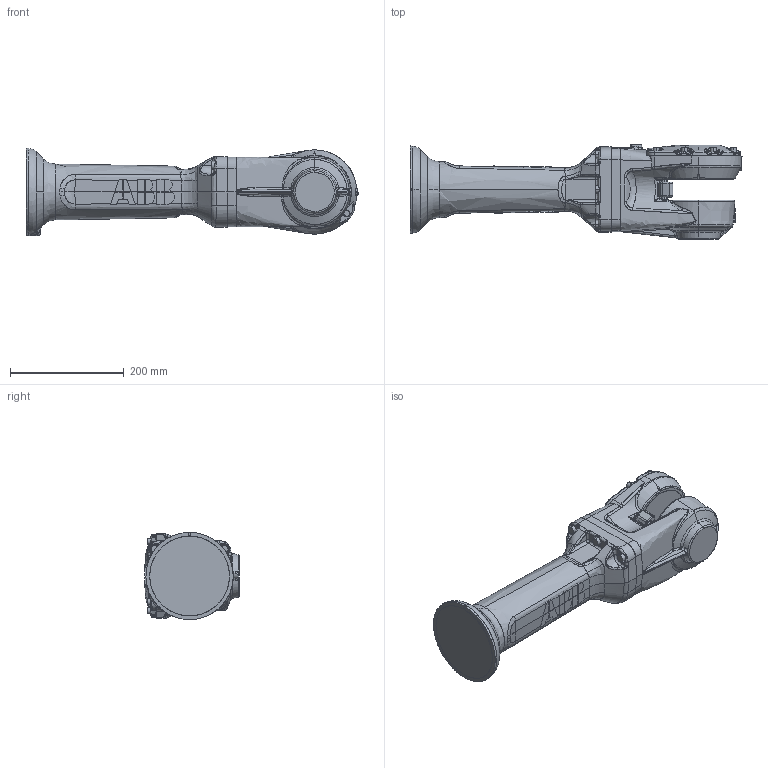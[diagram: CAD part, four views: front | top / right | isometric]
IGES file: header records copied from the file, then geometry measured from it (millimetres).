
Start section: SolidWorks IGES file using analytic representation for surfaces
Global section: file name: C:\Data\Lättmodeller\Nytt\2600\Update_tube_shaft\IRB2600_20kg-165_IRC5_rev01\IRB2600_20kg-165_IRC5_rev01_IRC5_IGES_j\IRB2600_20kg-165_LINK4_CAD_rev04.IGS; native system: SolidWorks 2014; preprocessor: SolidWorks 2014; author: seadbov; date: 170123.110903; units: millimetre
Bounding box: 583.5 x 166.5 x 153.36 mm (x, y, z)
Surface area: 372120.5 mm2 (no closed solid volume)
Topology: 0 solids, 0 shells, 1268 faces, 13613 edges, 13575 vertices
Faces by surface type: bspline 970, revolution 298
